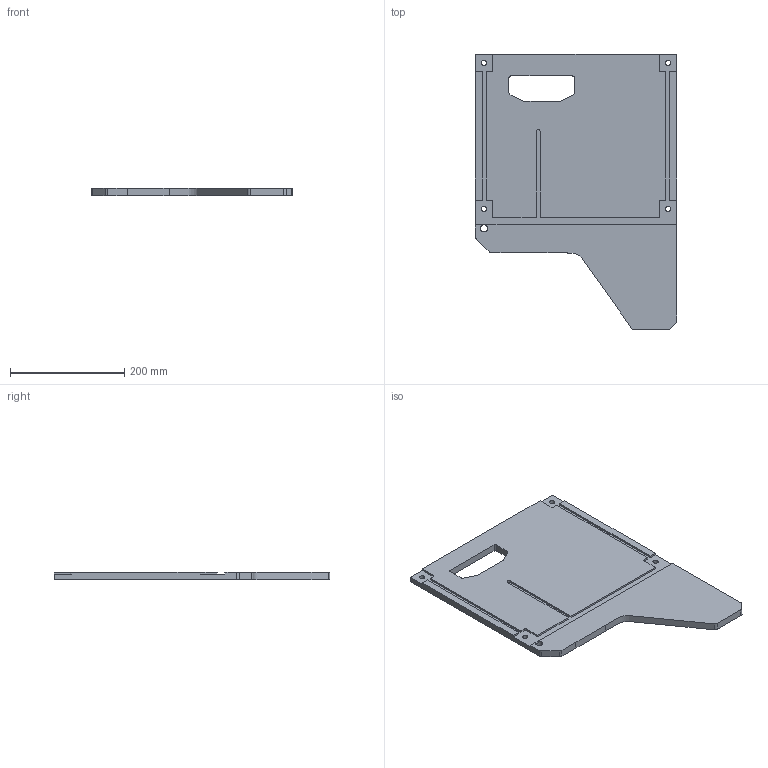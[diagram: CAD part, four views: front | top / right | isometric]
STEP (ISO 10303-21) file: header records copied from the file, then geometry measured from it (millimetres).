
FILE_DESCRIPTION(/* description */ (''),/* implementation_level */ '2;1');
FILE_NAME(/* name */ 'Cartex - panneau droite',/* time_stamp */ '2024-12-03T19:40:24-05:00',/* author */ (''),/* organization */ (''),/* preprocessor_version */ 'ST-DEVELOPER v19.2',/* originating_system */ 'Rhino 8.13',/* authorisation */ '');
FILE_SCHEMA (('CONFIG_CONTROL_DESIGN'));
Length unit declared in the file: millimetre
Products named in the file (1): Document
Bounding box: 352.43 x 482.6 x 12.7 mm (x, y, z)
Volume: 1660457.5 mm3; surface area: 298798.5 mm2
Topology: 1 solids, 1 shells, 79 faces, 234 edges, 156 vertices
Faces by surface type: plane 43, cylinder 27, bspline 9
Entity records: 2839 total; most frequent: CARTESIAN_POINT 968, ORIENTED_EDGE 468, EDGE_CURVE 234, DIRECTION 194, VERTEX_POINT 156, B_SPLINE_CURVE_WITH_KNOTS 152, AXIS2_PLACEMENT_3D 132, EDGE_LOOP 90
